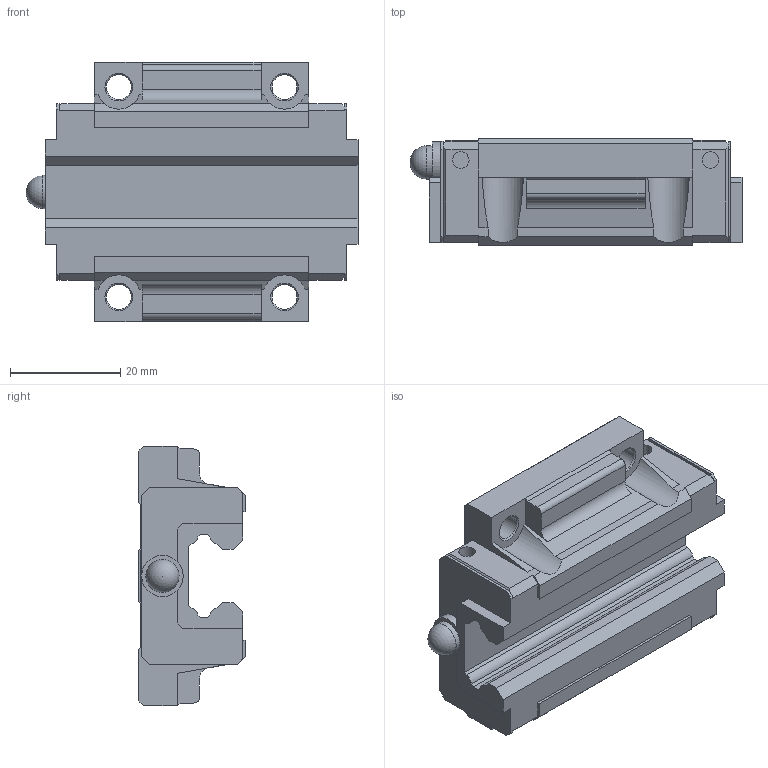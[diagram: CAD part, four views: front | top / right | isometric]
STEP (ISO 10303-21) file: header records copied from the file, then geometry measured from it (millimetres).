
FILE_DESCRIPTION(/* description */ ('STEP AP203'),/* implementation_level */ '2;1');
FILE_NAME(/* name */ 'HSR15C1SS(GK) BLOCK(1PB1021B)',/* time_stamp */ '2024-05-21T04:54:59+02:00',/* author */ ('License CC BY-ND 4.0'),/* organization */ ('CADENAS'),/* preprocessor_version */ 'ST-DEVELOPER v19.3',/* originating_system */ 'PARTsolutions',/* authorisation */ ' ');
FILE_SCHEMA (('CONFIG_CONTROL_DESIGN'));
Length unit declared in the file: millimetre
Products named in the file (3): HSR15C1SS(GK) BLOCK(1PB1021B); HSR15CSSPB1021B11 S; hsr_ftht_PB1021B_grease_nipple_joint
Assembly tree (2 placements, depth 2):
  HSR15C1SS(GK) BLOCK(1PB1021B)
    HSR15CSSPB1021B11 S
    hsr_ftht_PB1021B_grease_nipple_joint
Bounding box: 60.1 x 19.3 x 47 mm (x, y, z)
Volume: 30304.8 mm3; surface area: 10070.1 mm2
Topology: 2 solids, 2 shells, 175 faces, 478 edges, 316 vertices
Faces by surface type: plane 133, cylinder 33, cone 8, sphere 1
Full cylindrical faces by diameter (mm): 3 x4, 4 x3, 4.5 x4, 5.1 x2, 6 x1, 7.5 x1
Entity records: 5371 total; most frequent: CARTESIAN_POINT 928, ORIENTED_EDGE 888, DIRECTION 882, EDGE_CURVE 444, LINE 362, VECTOR 362, VERTEX_POINT 306, AXIS2_PLACEMENT_3D 260
